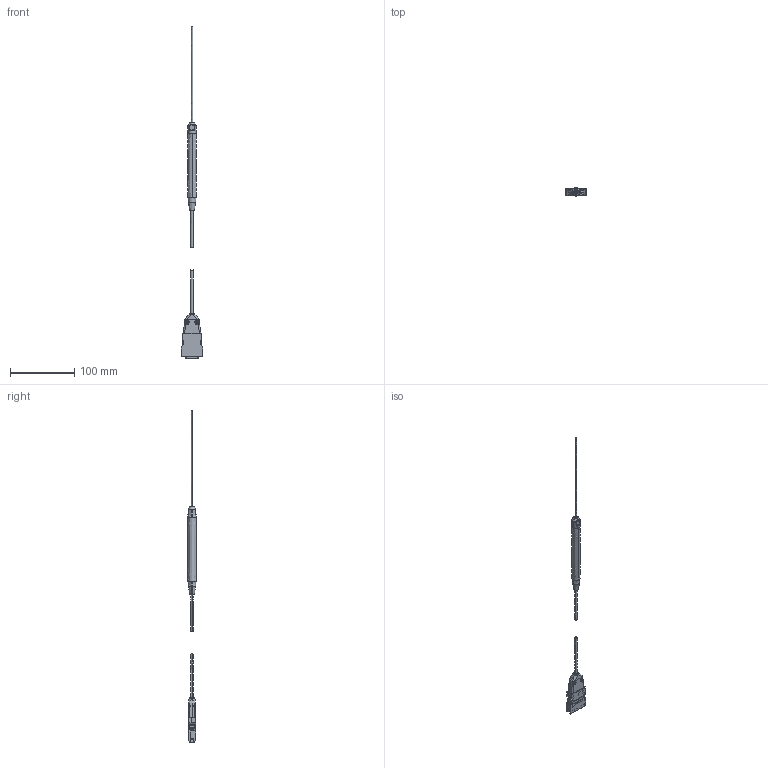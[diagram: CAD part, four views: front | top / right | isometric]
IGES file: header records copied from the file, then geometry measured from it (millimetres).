
Start section: SolidWorks IGES file using NURBS representation for surfaces
Global section: file name: C:\Users\jeremy.bluestein\Desktop\Parts sent for fab\Probe marketing models\FP-2X-250-AS15.IGS; native system: SolidWorks 2017; preprocessor: SolidWorks 2017; author: jeremy.bluestein; date: 180510.164044; units: millimetre
Bounding box: 33.27 x 13 x 518 mm (x, y, z)
Surface area: 21150.3 mm2 (no closed solid volume)
Topology: 0 solids, 5 shells, 1444 faces, 8452 edges, 10960 vertices
Faces by surface type: bspline 1444
